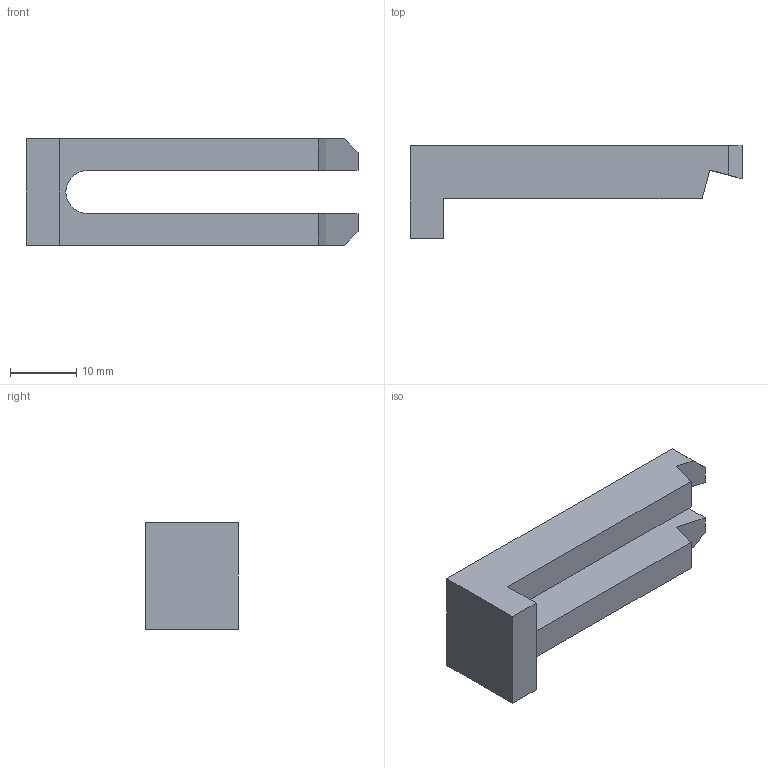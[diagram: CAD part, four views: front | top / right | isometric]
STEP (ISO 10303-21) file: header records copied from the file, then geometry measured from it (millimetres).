
FILE_DESCRIPTION(/* description */ (''),/* implementation_level */ '2;1');
FILE_NAME(/* name */ 'U:\KONSTRUKTORIAI\DOKUMENTACIJA\3\3TC5\step\3TC5.stp',/* time_stamp */ '2017-01-23T11:12:01+02:00',/* author */ ('dsgn33'),/* organization */ (''),/* preprocessor_version */ 'ST-DEVELOPER v15.2',/* originating_system */ 'Autodesk Inventor 2014',/* authorisation */ '');
FILE_SCHEMA (('AUTOMOTIVE_DESIGN { 1 0 10303 214 3 1 1 }'));
Length unit declared in the file: millimetre
Products named in the file (1): 3TC5.01
Bounding box: 50 x 14 x 16 mm (x, y, z)
Volume: 4417.4 mm3; surface area: 2930.2 mm2
Topology: 1 solids, 1 shells, 18 faces, 48 edges, 32 vertices
Faces by surface type: plane 17, cylinder 1
Entity records: 575 total; most frequent: CARTESIAN_POINT 99, ORIENTED_EDGE 96, DIRECTION 88, EDGE_CURVE 48, LINE 46, VECTOR 46, VERTEX_POINT 32, AXIS2_PLACEMENT_3D 21
